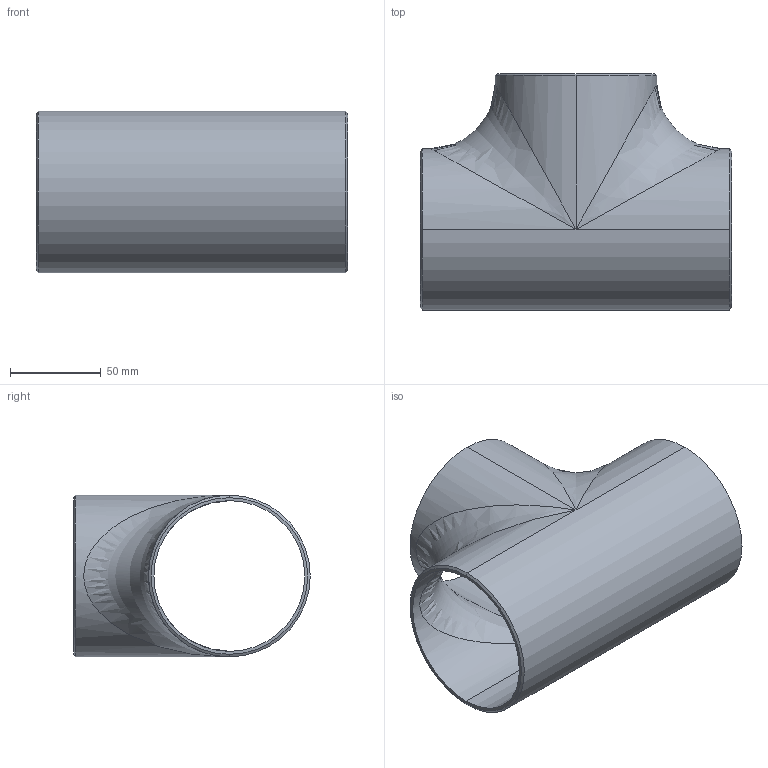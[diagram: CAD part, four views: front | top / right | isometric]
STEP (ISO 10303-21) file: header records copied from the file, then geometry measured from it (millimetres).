
FILE_DESCRIPTION (( 'STEP AP214' ), '1' );
FILE_NAME ('Equal-tee_Sch10S-80A.STEP', '2022-06-28T02:26:25', ( 'ASIS User' ), ( 'ASIS User' ), 'SwSTEP 2.0', 'SolidWorks 2022', '' );
FILE_SCHEMA (( 'AUTOMOTIVE_DESIGN' ));
Length unit declared in the file: millimetre
Products named in the file (1): Equal-tee_Sch10S-80A
Bounding box: 171.4 x 130.25 x 89.1 mm (x, y, z)
Volume: 161036.2 mm3; surface area: 109599.3 mm2
Topology: 1 solids, 1 shells, 23 faces, 52 edges, 22 vertices
Faces by surface type: cylinder 10, cone 6, bspline 4, plane 3
Entity records: 1278 total; most frequent: CARTESIAN_POINT 806, DIRECTION 94, ORIENTED_EDGE 88, EDGE_CURVE 44, AXIS2_PLACEMENT_3D 38, EDGE_LOOP 26, ADVANCED_FACE 23, FACE_OUTER_BOUND 23
